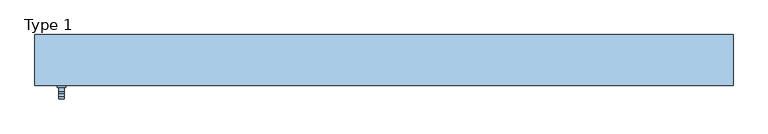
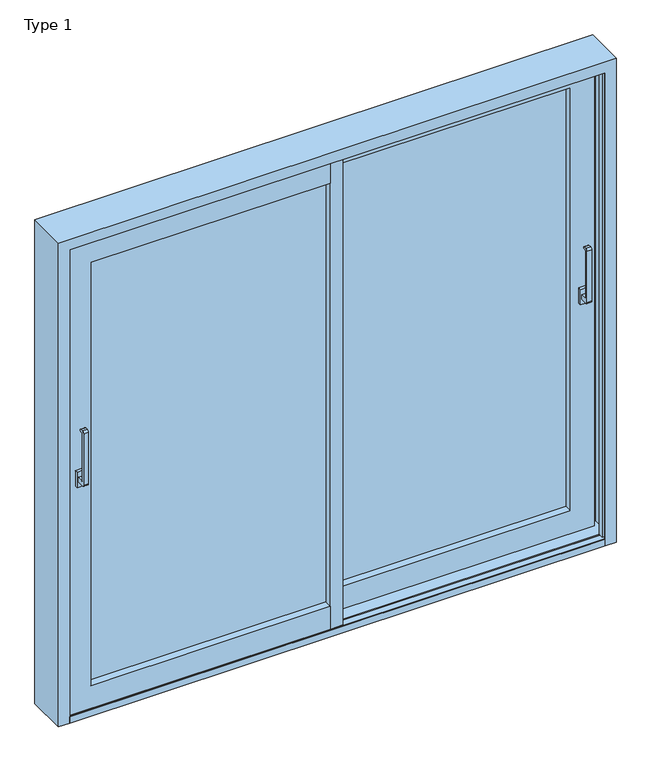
"""IFC4 building model written with IfcOpenShell, lengths in millimetres: window geometry, ETEM_ES70_Double_Lift_Sliding_FR_NI : Type 1."""

from ifc_helpers import new_model, si_unit, point, frame, frame_2d, origin, place, context, project, spatial, polyline, circle_curve, trimmed, segment, composite_curve, outline, extrude, faceted_brep, source, transform, mapped, element, save


def type_1_3cb6bbd2(model_context):
    return source(origin(), model_context, "Body", "SolidModel", [
        extrude(outline(composite_curve([segment(polyline([(39.6, 1090.0), (8.0263152, 1090.0)]), True, "CONTINUOUS"), segment(trimmed(circle_curve(frame_2d((8.0263152, 1098.4263152)), 8.4263152), [point((8.0263152, 1090.0))], [point((-0.4, 1098.4263152))], False, "CARTESIAN"), True, "CONTINUOUS"), segment(polyline([(-0.4, 1098.4263152), (-0.4, 1331.5736848)]), True, "CONTINUOUS"), segment(trimmed(circle_curve(frame_2d((8.0263152, 1331.5736848)), 8.4263152), [point((-0.4, 1331.5736848))], [point((8.0263152, 1340.0))], False, "CARTESIAN"), True, "CONTINUOUS"), segment(polyline([(8.0263152, 1340.0), (19.6, 1340.0)]), True, "CONTINUOUS"), segment(trimmed(circle_curve(frame_2d((19.6, 1335.0)), 5.0), [point((19.6, 1340.0))], [point((19.6, 1330.0))], False, "CARTESIAN"), True, "CONTINUOUS"), segment(polyline([(19.6, 1330.0), (13.1355339, 1330.0)]), True, "CONTINUOUS"), segment(trimmed(circle_curve(frame_2d((13.1355339, 1326.4644661)), 3.5355339), [point((13.1355339, 1330.0))], [point((9.6, 1326.4644661))], True, "CARTESIAN"), True, "CONTINUOUS"), segment(polyline([(9.6, 1326.4644661), (9.6, 1113.5355339)]), True, "CONTINUOUS"), segment(trimmed(circle_curve(frame_2d((13.1355339, 1113.5355339)), 3.5355339), [point((9.6, 1113.5355339))], [point((13.1355339, 1110.0))], True, "CARTESIAN"), True, "CONTINUOUS"), segment(polyline([(13.1355339, 1110.0), (39.6, 1110.0), (39.6, 1090.0)]), True, "CONTINUOUS")], self_intersect=False)), frame((1098.5, 0.0, 0.0), z_axis=(1.0, 0.0, 0.0), x_axis=(0.0, 1.0, 0.0)), (0.0, 0.0, 1.0), 20.0),
        extrude(outline(polyline([(1123.5, 39.6), (1093.5, 39.6), (1093.5, 52.6), (1123.5, 52.6), (1123.5, 39.6)])), frame((0.0, 0.0, 1065.0), z_axis=(0.0, 0.0, 1.0), x_axis=(1.0, 0.0, 0.0)), (0.0, 0.0, 1.0), 70.0),
        extrude(outline(composite_curve([segment(polyline([(-50.4, 1090.0), (-81.9736848, 1090.0)]), True, "CONTINUOUS"), segment(trimmed(circle_curve(frame_2d((-81.9736848, 1098.4263152)), 8.4263152), [point((-81.9736848, 1090.0))], [point((-90.4, 1098.4263152))], False, "CARTESIAN"), True, "CONTINUOUS"), segment(polyline([(-90.4, 1098.4263152), (-90.4, 1331.5736848)]), True, "CONTINUOUS"), segment(trimmed(circle_curve(frame_2d((-81.9736848, 1331.5736848)), 8.4263152), [point((-90.4, 1331.5736848))], [point((-81.9736848, 1340.0))], False, "CARTESIAN"), True, "CONTINUOUS"), segment(polyline([(-81.9736848, 1340.0), (-70.4, 1340.0)]), True, "CONTINUOUS"), segment(trimmed(circle_curve(frame_2d((-70.4, 1335.0)), 5.0), [point((-70.4, 1340.0))], [point((-70.4, 1330.0))], False, "CARTESIAN"), True, "CONTINUOUS"), segment(polyline([(-70.4, 1330.0), (-76.8644661, 1330.0)]), True, "CONTINUOUS"), segment(trimmed(circle_curve(frame_2d((-76.8644661, 1326.4644661)), 3.5355339), [point((-76.8644661, 1330.0))], [point((-80.4, 1326.4644661))], True, "CARTESIAN"), True, "CONTINUOUS"), segment(polyline([(-80.4, 1326.4644661), (-80.4, 1113.5355339)]), True, "CONTINUOUS"), segment(trimmed(circle_curve(frame_2d((-76.8644661, 1113.5355339)), 3.5355339), [point((-80.4, 1113.5355339))], [point((-76.8644661, 1110.0))], True, "CARTESIAN"), True, "CONTINUOUS"), segment(polyline([(-76.8644661, 1110.0), (-50.4, 1110.0), (-50.4, 1090.0)]), True, "CONTINUOUS")], self_intersect=False)), frame((-1118.5, 0.0, 0.0), z_axis=(1.0, 0.0, 0.0), x_axis=(0.0, 1.0, 0.0)), (0.0, 0.0, 1.0), 20.0),
        extrude(outline(polyline([(-1093.5, -50.4), (-1123.5, -50.4), (-1123.5, -37.4), (-1093.5, -37.4), (-1093.5, -50.4)])), frame((0.0, 0.0, 1065.0), z_axis=(0.0, 0.0, 1.0), x_axis=(1.0, 0.0, 0.0)), (0.0, 0.0, 1.0), 70.0),
        faceted_brep([(-1200.0, 131.1, 0.0), (-1152.0, 131.1, 0.0), (-1152.0, 124.0, 0.0), (-1183.7, 124.0, 0.0), (-1183.7, 92.1, 0.0), (-1160.0, 92.1, 0.0), (-1160.0, 106.1, 0.0), (-1152.0, 106.1, 0.0), (-1152.0, 83.1, 0.0), (-1183.7, 83.1, 0.0), (-1183.7, 2.1, 0.0), (-1152.0, 2.1, 0.0), (-1152.0, -20.9, 0.0), (-1160.0, -20.9, 0.0), (-1160.0, -6.9, 0.0), (-1183.7, -6.9, 0.0), (-1183.7, -40.2, 0.0), (-1152.0, -40.2, 0.0), (-1152.0, -44.0, 0.0), (-1200.0, -44.0, 0.0), (-1200.0, 131.1, 2200.0), (1200.0, 131.1, 2200.0), (1200.0, 131.1, 0.0), (1152.0, 131.1, 0.0), (1152.0, 131.1, 2152.0), (-1152.0, 131.1, 2152.0), (-1152.0, 124.0, 2152.0), (1152.0, 124.0, 2152.0), (1152.0, 124.0, 0.0), (1183.7, 124.0, 0.0), (1183.7, 124.0, 2183.7), (-1183.7, 124.0, 2183.7), (-1183.7, 92.1, 2183.7), (1183.7, 92.1, 2183.7), (1183.7, 92.1, 0.0), (1160.0, 92.1, 0.0), (1160.0, 92.1, 2160.0), (-1160.0, 92.1, 2160.0), (-1160.0, 106.1, 2160.0), (1160.0, 106.1, 2160.0), (1160.0, 106.1, 0.0), (1152.0, 106.1, 0.0), (1152.0, 106.1, 2152.0), (-1152.0, 106.1, 2152.0), (-1152.0, 83.1, 2152.0), (1152.0, 83.1, 2152.0), (1152.0, 83.1, 0.0), (1183.7, 83.1, 0.0), (1183.7, 83.1, 2183.7), (-1183.7, 83.1, 2183.7), (-1183.7, 2.1, 2183.7), (1183.7, 2.1, 2183.7), (1183.7, 2.1, 0.0), (1152.0, 2.1, 0.0), (1152.0, 2.1, 2152.0), (-1152.0, 2.1, 2152.0), (-1152.0, -20.9, 2152.0), (1152.0, -20.9, 2152.0), (1152.0, -20.9, 0.0), (1160.0, -20.9, 0.0), (1160.0, -20.9, 2160.0), (-1160.0, -20.9, 2160.0), (-1160.0, -6.9, 2160.0), (1160.0, -6.9, 2160.0), (1160.0, -6.9, 0.0), (1183.7, -6.9, 0.0), (1183.7, -6.9, 2183.7), (-1183.7, -6.9, 2183.7), (-1183.7, -40.2, 2183.7), (1183.7, -40.2, 2183.7), (1183.7, -40.2, 0.0), (1152.0, -40.2, 0.0), (1152.0, -40.2, 2152.0), (-1152.0, -40.2, 2152.0), (-1152.0, -44.0, 2152.0), (1152.0, -44.0, 2152.0), (1152.0, -44.0, 0.0), (1200.0, -44.0, 0.0), (1200.0, -44.0, 2200.0), (-1200.0, -44.0, 2200.0)], [[[0, 1, 2, 3, 4, 5, 6, 7, 8, 9, 10, 11, 12, 13, 14, 15, 16, 17, 18, 19]], [[1, 0, 20, 21, 22, 23, 24, 25]], [[2, 1, 25, 26]], [[2, 26, 27, 28, 29, 30, 31, 3]], [[4, 3, 31, 32]], [[5, 4, 32, 33, 34, 35, 36, 37]], [[6, 5, 37, 38]], [[7, 6, 38, 39, 40, 41, 42, 43]], [[8, 7, 43, 44]], [[9, 8, 44, 45, 46, 47, 48, 49]], [[10, 9, 49, 50]], [[11, 10, 50, 51, 52, 53, 54, 55]], [[12, 11, 55, 56]], [[13, 12, 56, 57, 58, 59, 60, 61]], [[14, 13, 61, 62]], [[15, 14, 62, 63, 64, 65, 66, 67]], [[16, 15, 67, 68]], [[17, 16, 68, 69, 70, 71, 72, 73]], [[18, 17, 73, 74]], [[19, 18, 74, 75, 76, 77, 78, 79]], [[0, 19, 79, 20]], [[77, 76, 71, 70, 65, 64, 59, 58, 53, 52, 47, 46, 41, 40, 35, 34, 29, 28, 23, 22]], [[71, 76, 75, 72]], [[65, 70, 69, 66]], [[59, 64, 63, 60]], [[53, 58, 57, 54]], [[47, 52, 51, 48]], [[41, 46, 45, 42]], [[35, 40, 39, 36]], [[29, 34, 33, 30]], [[23, 28, 27, 24]], [[77, 22, 21, 78]], [[25, 24, 27, 26]], [[21, 20, 79, 78]], [[32, 31, 30, 33]], [[37, 36, 39, 38]], [[43, 42, 45, 44]], [[49, 48, 51, 50]], [[55, 54, 57, 56]], [[61, 60, 63, 62]], [[67, 66, 69, 68]], [[75, 74, 73, 72]]]),
        faceted_brep([(-27.0, 32.6, 133.0), (-27.0, -37.4, 133.0), (-27.0, -37.4, 30.0), (-27.0, -25.0, 30.0), (-27.0, -25.0, 61.1), (-27.0, 20.2, 61.1), (-27.0, 20.2, 30.0), (-27.0, 32.6, 30.0), (-1058.0, 32.6, 133.0), (-1058.0, -37.4, 133.0), (-1058.0, -37.4, 2058.0), (-27.0, -37.4, 2058.0), (-27.0, -37.4, 2161.0), (-1161.0, -37.4, 2161.0), (-1161.0, -37.4, 30.0), (-1161.0, -25.0, 30.0), (-1161.0, -25.0, 2161.0), (-27.0, -25.0, 2161.0), (-27.0, -25.0, 2129.9), (-1129.9, -25.0, 2129.9), (-1129.9, -25.0, 61.1), (-1129.9, 20.2, 61.1), (-1129.9, 20.2, 2129.9), (-27.0, 20.2, 2129.9), (-27.0, 20.2, 2161.0), (-1161.0, 20.2, 2161.0), (-1161.0, 20.2, 30.0), (-1161.0, 32.6, 30.0), (-1161.0, 32.6, 2161.0), (-27.0, 32.6, 2161.0), (-27.0, 32.6, 2058.0), (-1058.0, 32.6, 2058.0)], [[[0, 1, 2, 3, 4, 5, 6, 7]], [[1, 0, 8, 9]], [[2, 1, 9, 10, 11, 12, 13, 14]], [[3, 2, 14, 15]], [[4, 3, 15, 16, 17, 18, 19, 20]], [[5, 4, 20, 21]], [[6, 5, 21, 22, 23, 24, 25, 26]], [[7, 6, 26, 27]], [[0, 7, 27, 28, 29, 30, 31, 8]], [[9, 8, 31, 10]], [[15, 14, 13, 16]], [[21, 20, 19, 22]], [[27, 26, 25, 28]], [[30, 29, 24, 23, 18, 17, 12, 11]], [[10, 31, 30, 11]], [[16, 13, 12, 17]], [[22, 19, 18, 23]], [[28, 25, 24, 29]]]),
        extrude(outline(polyline([(-1058.0, 2.6007591), (-27.0, 2.6007591), (-27.0, -3.3992409), (-1058.0, -3.3992409), (-1058.0, 2.6007591)])), frame((0.0, 0.0, 133.0), z_axis=(0.0, 0.0, 1.0), x_axis=(1.0, 0.0, 0.0)), (0.0, 0.0, 1.0), 1925.0),
        extrude(outline(polyline([(27.0, 114.6007591), (1058.0, 114.6007591), (1058.0, 108.6007591), (27.0, 108.6007591), (27.0, 114.6007591)])), frame((0.0, 0.0, 133.0), z_axis=(0.0, 0.0, 1.0), x_axis=(1.0, 0.0, 0.0)), (0.0, 0.0, 1.0), 1925.0),
        faceted_brep([(27.0, 122.6, 133.0), (27.0, 122.6, 30.0), (27.0, 110.2, 30.0), (27.0, 110.2, 61.1), (27.0, 65.0, 61.1), (27.0, 65.0, 30.0), (27.0, 52.6, 30.0), (27.0, 52.6, 133.0), (1058.0, 122.6, 133.0), (1058.0, 122.6, 2058.0), (27.0, 122.6, 2058.0), (27.0, 122.6, 2161.0), (1161.0, 122.6, 2161.0), (1161.0, 122.6, 30.0), (1161.0, 110.2, 30.0), (1161.0, 110.2, 2161.0), (27.0, 110.2, 2161.0), (27.0, 110.2, 2129.9), (1129.9, 110.2, 2129.9), (1129.9, 110.2, 61.1), (1129.9, 65.0, 61.1), (1129.9, 65.0, 2129.9), (27.0, 65.0, 2129.9), (27.0, 65.0, 2161.0), (1161.0, 65.0, 2161.0), (1161.0, 65.0, 30.0), (1161.0, 52.6, 30.0), (1161.0, 52.6, 2161.0), (27.0, 52.6, 2161.0), (27.0, 52.6, 2058.0), (1058.0, 52.6, 2058.0), (1058.0, 52.6, 133.0)], [[[0, 1, 2, 3, 4, 5, 6, 7]], [[1, 0, 8, 9, 10, 11, 12, 13]], [[2, 1, 13, 14]], [[3, 2, 14, 15, 16, 17, 18, 19]], [[4, 3, 19, 20]], [[5, 4, 20, 21, 22, 23, 24, 25]], [[6, 5, 25, 26]], [[7, 6, 26, 27, 28, 29, 30, 31]], [[0, 7, 31, 8]], [[8, 31, 30, 9]], [[14, 13, 12, 15]], [[20, 19, 18, 21]], [[26, 25, 24, 27]], [[10, 29, 28, 23, 22, 17, 16, 11]], [[15, 12, 11, 16]], [[21, 18, 17, 22]], [[27, 24, 23, 28]], [[9, 30, 29, 10]]]),
        extrude(outline(polyline([(27.0, -37.4), (-27.0, -37.4), (-27.0, 32.6), (18.6, 32.6), (18.6, 48.6), (27.0, 48.6), (27.0, -37.4)])), frame((0.0, 0.0, 30.0), z_axis=(0.0, 0.0, 1.0), x_axis=(1.0, 0.0, 0.0)), (0.0, 0.0, 1.0), 2131.0),
        extrude(outline(polyline([(-27.0, 122.6), (27.0, 122.6), (27.0, 52.6), (-18.6, 52.6), (-18.6, 36.6), (-27.0, 36.6), (-27.0, 122.6)])), frame((0.0, 0.0, 30.0), z_axis=(0.0, 0.0, 1.0), x_axis=(1.0, 0.0, 0.0)), (0.0, 0.0, 1.0), 2131.0),
        extrude(outline(polyline([(-1058.0, 24.6007591), (-27.0, 24.6007591), (-27.0, 18.6007591), (-1058.0, 18.6007591), (-1058.0, 24.6007591)])), frame((0.0, 0.0, 133.0), z_axis=(0.0, 0.0, 1.0), x_axis=(1.0, 0.0, 0.0)), (0.0, 0.0, 1.0), 1925.0),
        extrude(outline(polyline([(27.0, 92.6007591), (1058.0, 92.6007591), (1058.0, 86.6007591), (27.0, 86.6007591), (27.0, 92.6007591)])), frame((0.0, 0.0, 133.0), z_axis=(0.0, 0.0, 1.0), x_axis=(1.0, 0.0, 0.0)), (0.0, 0.0, 1.0), 1925.0),
        faceted_brep([(1152.0, -40.1947513, 25.0), (1183.7, -40.1947513, 25.0), (1183.7, -6.9, 25.0), (1160.0, -6.9, 25.0), (1160.0, -20.9, 25.0), (1152.0, -20.9, 25.0), (1152.0, -4.8, 25.0), (-1152.0, -4.8, 25.0), (-1152.0, -20.9, 25.0), (-1160.0, -20.9, 25.0), (-1160.0, -6.9, 25.0), (-1183.7, -6.9, 25.0), (-1183.7, -40.1947513, 25.0), (-1152.0, -40.1947513, 25.0), (1183.7, 123.0, 25.0), (1183.7, 123.0, 0.0), (-1183.7, 123.0, 0.0), (-1183.7, 123.0, 25.0), (1152.0, -43.9943177, 0.0), (1152.0, -43.9943177, 30.0), (-1152.0, -43.9943177, 30.0), (-1152.0, -43.9943177, 0.0), (1152.0, 106.1, 0.0), (1152.0, 83.1, 0.0), (1183.7, 83.1, 0.0), (1183.7, 2.1, 0.0), (1152.0, 2.1, 0.0), (1152.0, -20.9, 0.0), (1160.0, -20.9, 0.0), (1160.0, -6.9, 0.0), (1183.7, -6.9, 0.0), (1183.7, -40.1947513, 0.0), (1152.0, -40.1947513, 0.0), (-1152.0, -40.1947513, 0.0), (-1183.7, -40.1947513, 0.0), (-1183.7, -6.9, 0.0), (-1160.0, -6.9, 0.0), (-1160.0, -20.9, 0.0), (-1152.0, -20.9, 0.0), (-1152.0, 2.1, 0.0), (-1183.7, 2.1, 0.0), (-1183.7, 83.1, 0.0), (-1152.0, 83.1, 0.0), (-1152.0, 106.1, 0.0), (-1160.0, 106.1, 0.0), (-1160.0, 92.1, 0.0), (-1183.7, 92.1, 0.0), (1183.7, 92.1, 0.0), (1160.0, 92.1, 0.0), (1160.0, 106.1, 0.0), (1152.0, -40.1947513, 30.0), (-1152.0, -40.1947513, 30.0), (1152.0, 106.1, 25.0), (1152.0, 90.0, 25.0), (1152.0, 90.0, 21.0), (1152.0, 85.2, 21.0), (1152.0, 85.2, 25.0), (1152.0, 83.1, 25.0), (1160.0, 106.1, 25.0), (1160.0, 92.1, 25.0), (1183.7, 92.1, 25.0), (1152.0, 2.1, 25.0), (1152.0, 0.0, 25.0), (1152.0, 0.0, 21.0), (1152.0, -4.8, 21.0), (1183.7, 2.1, 25.0), (1183.7, 83.1, 25.0), (-1152.0, 83.1, 25.0), (-1152.0, 85.2, 25.0), (-1152.0, 85.2, 21.0), (-1152.0, 90.0, 21.0), (-1152.0, 90.0, 25.0), (-1152.0, 106.1, 25.0), (-1160.0, 106.1, 25.0), (-1160.0, 92.1, 25.0), (-1183.7, 92.1, 25.0), (-1152.0, -4.8, 21.0), (-1152.0, 0.0, 21.0), (-1152.0, 0.0, 25.0), (-1152.0, 2.1, 25.0), (-1183.7, 2.1, 25.0), (-1183.7, 83.1, 25.0)], [[[0, 1, 2, 3, 4, 5, 6, 7, 8, 9, 10, 11, 12, 13]], [[14, 15, 16, 17]], [[18, 19, 20, 21]], [[22, 23, 24, 25, 26, 27, 28, 29, 30, 31, 32, 18, 21, 33, 34, 35, 36, 37, 38, 39, 40, 41, 42, 43, 44, 45, 46, 16, 15, 47, 48, 49]], [[50, 0, 13, 51]], [[19, 50, 51, 20]], [[22, 52, 53, 54, 55, 56, 57, 23]], [[52, 22, 49, 58]], [[58, 49, 48, 59]], [[59, 48, 47, 60]], [[60, 47, 15, 14]], [[32, 0, 50, 19, 18]], [[0, 32, 31, 1]], [[1, 31, 30, 2]], [[2, 30, 29, 3]], [[3, 29, 28, 4]], [[4, 28, 27, 5]], [[5, 27, 26, 61, 62, 63, 64, 6]], [[61, 26, 25, 65]], [[65, 25, 24, 66]], [[66, 24, 23, 57]], [[42, 67, 68, 69, 70, 71, 72, 43]], [[43, 72, 73, 44]], [[44, 73, 74, 45]], [[45, 74, 75, 46]], [[46, 75, 17, 16]], [[13, 33, 21, 20, 51]], [[33, 13, 12, 34]], [[34, 12, 11, 35]], [[35, 11, 10, 36]], [[36, 10, 9, 37]], [[37, 9, 8, 38]], [[38, 8, 7, 76, 77, 78, 79, 39]], [[39, 79, 80, 40]], [[40, 80, 81, 41]], [[67, 42, 41, 81]], [[53, 52, 58, 59, 60, 14, 17, 75, 74, 73, 72, 71]], [[54, 53, 71, 70]], [[55, 54, 70, 69]], [[56, 55, 69, 68]], [[57, 56, 68, 67, 81, 80, 79, 78, 62, 61, 65, 66]], [[63, 62, 78, 77]], [[64, 63, 77, 76]], [[6, 64, 76, 7]]]),
    ])


if __name__ == "__main__":
    model = new_model("IFC4")
    model_context = context("Model", 3, world=origin())
    ifc_project = project(units=[si_unit("LENGTHUNIT", "METRE", prefix="MILLI")], contexts=[model_context])
    site = spatial("IfcSite", under=ifc_project)
    building = spatial("IfcBuilding", under=site)
    placement = place(None, origin())
    type_1_shape = type_1_3cb6bbd2(model_context)
    element("IfcWindow", 1, ObjectType="ETEM_ES70_Double_Lift_Sliding_FR_NI : Type 1", at=placement, inside=building, context=model_context, shape_type="MappedRepresentation", body=[
        mapped(type_1_shape, transform((0.0, 0.0, 0.0), x_axis=(1.0, 0.0, 0.0), y_axis=(0.0, 1.0, 0.0), z_axis=(0.0, 0.0, 1.0))),
    ])
    save(model, "model.ifc")
